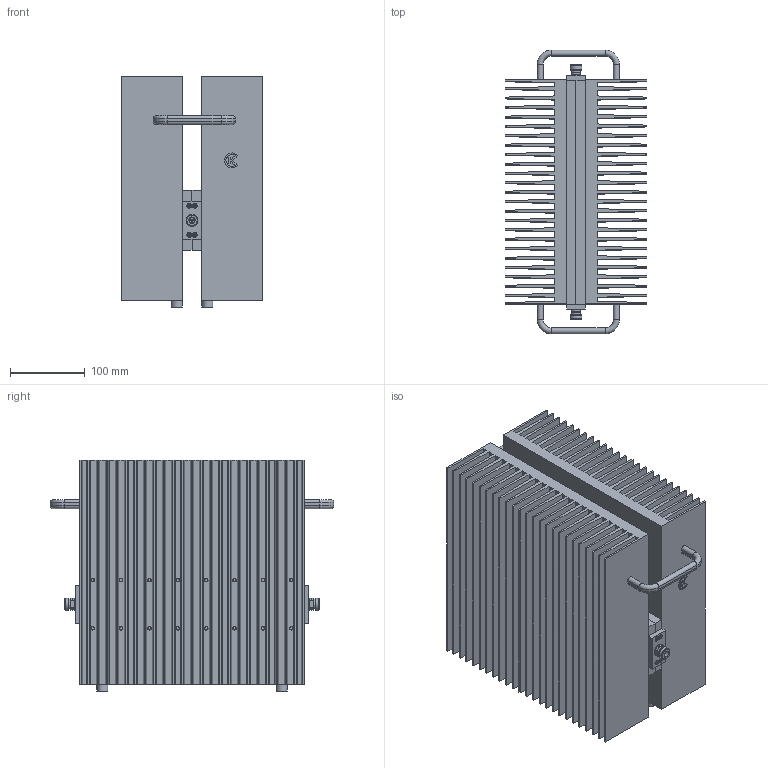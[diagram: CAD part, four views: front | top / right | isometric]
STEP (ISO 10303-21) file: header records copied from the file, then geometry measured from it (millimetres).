
FILE_DESCRIPTION(('STEP AP203'), '1');
FILE_NAME('ÏÐ1-25-1000', '', ('UNSPECIFIED'), ('UNSPECIFIED'), 'C3D Converter', 'C3D Toolkit', '');
FILE_SCHEMA(('CONFIG_CONTROL_DESIGN'));
Length unit declared in the file: millimetre
Products named in the file (16): -01
Assembly tree (53 placements, depth 3):
  (unnamed)
    (unnamed)
    (unnamed)
    (unnamed)  x2
    (unnamed)  x2
    (unnamed)  x2
    (unnamed)
      (unnamed)
      (unnamed)
      (unnamed)  x10
    (unnamed)  x4
    (unnamed)  x16
    (unnamed)  x2
    (unnamed)  x8
    (unnamed)
    -01
Bounding box: 189 x 380 x 310 mm (x, y, z)
Volume: 6914260.9 mm3; surface area: 2551185.3 mm2
Topology: 52 solids, 52 shells, 1192 faces, 2854 edges, 1846 vertices
Faces by surface type: plane 736, cylinder 278, torus 92, cone 86
Full cylindrical faces by diameter (mm): 1.66 x2, 3 x16, 3.04 x2, 3.242 x8, 4.917 x26, 5 x14, 5.5 x12, 6 x16, 6.2 x16, 6.5 x50, 7 x2, 8.06 x2, 8.5 x18, 10 x16, 11 x26, 11.6 x2, 14 x4, 15 x4, 15.87 x2, 16 x4
Entity records: 25643 total; most frequent: CARTESIAN_POINT 4779, DIRECTION 3134, ORIENTED_EDGE 2848, EDGE_CURVE 1424, AXIS2_PLACEMENT_3D 1125, VERTEX_POINT 1052, EDGE_LOOP 1036, LINE 884
